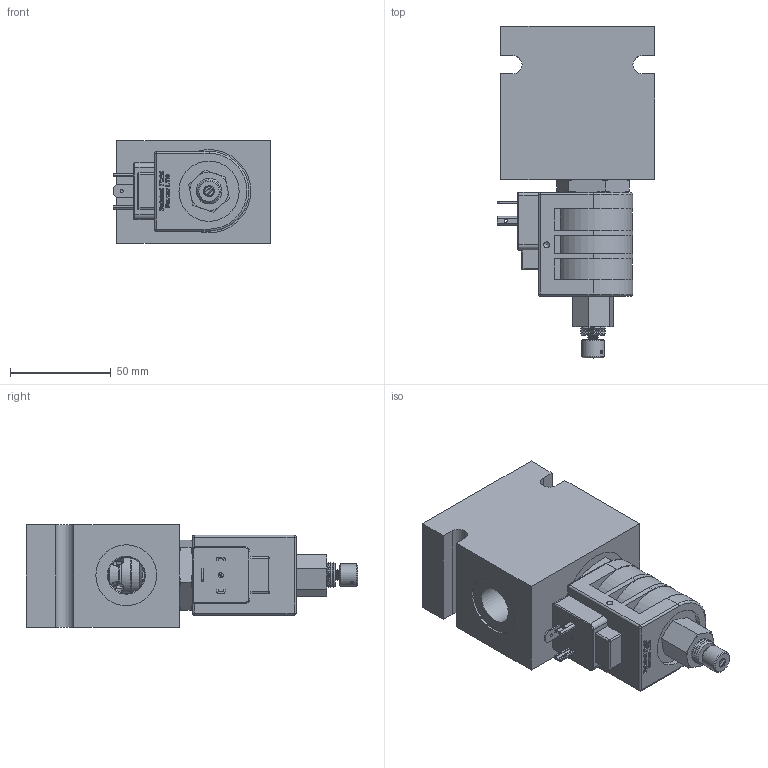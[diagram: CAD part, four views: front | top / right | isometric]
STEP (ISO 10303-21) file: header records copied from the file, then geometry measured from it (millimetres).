
FILE_DESCRIPTION( ( 'Unknown' ), '1' );
FILE_NAME( 'G:/Graphic Design/Graphic Design 2/Data Sheets/SOLENOID OPERATED VALVES/4_STEP/2W2P Normally Open/TT-S2C0M-C2.stp', 'Unknown', ( 'Unknown' ), ( 'Unknown' ), 'PSStep 15.0.49', 'Unknown', ' ' );
FILE_SCHEMA( ( 'AUTOMOTIVE_DESIGN { 1 0 10303 214 1 1 1 1 }' ) );
Length unit declared in the file: millimetre
Products named in the file (17): D-TT-S2C-0K-delta; TTS2C0K-3D Full1; TTS2C0K-3D Full2; TTS2C0K-3D Full3; TTS2C0K-3D Full4; TTS2C0K-3D Full5; TTS2C0K-3D Full6; Delta_1_2_nut_LONG1; D-DHC24; DHC-Disc; PT-EL-HC-TerminalConnectors; DHC-Body; Assem1; B-DHTC2
Assembly tree (17 placements, depth 3):
  Assem1
    B-DHTC2
    D-DHC24
      DHC-Disc  x2
      PT-EL-HC-TerminalConnectors
      PT-EL-HC-TerminalConnectors
      PT-EL-HC-TerminalConnectors
      PT-EL-HC-TerminalConnectors
      DHC-Body
    D-TT-S2C-0K-delta
      TTS2C0K-3D Full1
      TTS2C0K-3D Full2
      TTS2C0K-3D Full3
      TTS2C0K-3D Full4
      TTS2C0K-3D Full5
      TTS2C0K-3D Full6
      Delta_1_2_nut_LONG1
Bounding box: 77.9 x 164.58 x 50.8 mm (x, y, z)
Volume: 355560.5 mm3; surface area: 71982 mm2
Topology: 15 solids, 15 shells, 687 faces, 1721 edges, 1104 vertices
Faces by surface type: plane 307, cone 130, extrusion 118, cylinder 102, torus 24, sphere 6
Full cylindrical faces by diameter (mm): 1 x1, 1.5 x3, 1.613 x2, 2.5 x1, 3 x2, 4.115 x1, 6.782 x4, 10.414 x1, 10.795 x1, 10.998 x1, 11.112 x1, 11.176 x1, 12.675 x1, 12.7 x2, 12.725 x1, 13 x1, 13.3 x1, 13.97 x1, 14.296 x1, 14.554 x1, 17.653 x1, 18 x1, 18.8 x4, 18.923 x2, 19.304 x1, 19.355 x1, 19.939 x2, 22 x1, 23.673 x1, 23.724 x2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
Entity records: 26940 total; most frequent: CARTESIAN_POINT 6173, ORIENTED_EDGE 3052, DIRECTION 2770, EDGE_CURVE 1526, VERTEX_POINT 1068, AXIS2_PLACEMENT_3D 931, EDGE_LOOP 908, VECTOR 908
